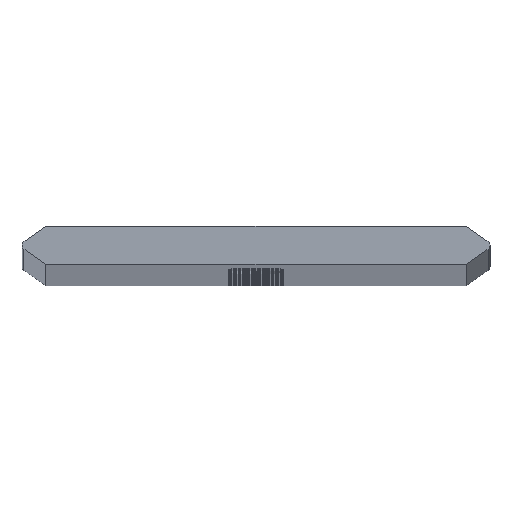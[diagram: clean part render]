
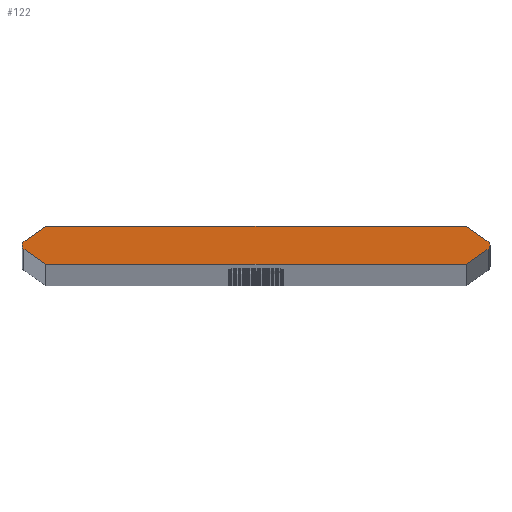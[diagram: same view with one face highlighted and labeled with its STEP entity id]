
A CAD part, top view. The second image highlights one B-rep face of the part: STEP entity #122.
In plain terms, the highlighted planar face has unit normal (0, 0, 1).
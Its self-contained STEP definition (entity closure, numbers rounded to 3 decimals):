
#122=ADVANCED_FACE('',(#226),#227,.T.);
#226=FACE_OUTER_BOUND('',#382,.T.);
#227=PLANE('',#383);
#382=EDGE_LOOP('',(#773,#774,#775,#776,#777,#778,#779,#780,#781,#782));
#383=AXIS2_PLACEMENT_3D('',#783,#784,#785);
#773=ORIENTED_EDGE('',*,*,#941,.T.);
#774=ORIENTED_EDGE('',*,*,#1078,.T.);
#775=ORIENTED_EDGE('',*,*,#1079,.F.);
#776=ORIENTED_EDGE('',*,*,#1080,.F.);
#777=ORIENTED_EDGE('',*,*,#1081,.F.);
#778=ORIENTED_EDGE('',*,*,#937,.T.);
#779=ORIENTED_EDGE('',*,*,#1082,.T.);
#780=ORIENTED_EDGE('',*,*,#1083,.F.);
#781=ORIENTED_EDGE('',*,*,#1084,.F.);
#782=ORIENTED_EDGE('',*,*,#1085,.F.);
#783=CARTESIAN_POINT('',(0.,0.,1976.0));
#784=DIRECTION('',(0.0,0.0,1.0));
#785=DIRECTION('',(1.0,0.0,0.0));
#937=EDGE_CURVE('',#1101,#1098,#1102,.T.);
#941=EDGE_CURVE('',#1109,#1106,#1110,.T.);
#1078=EDGE_CURVE('',#1106,#1336,#1338,.T.);
#1079=EDGE_CURVE('',#1339,#1336,#1340,.T.);
#1080=EDGE_CURVE('',#1341,#1339,#1342,.T.);
#1081=EDGE_CURVE('',#1101,#1341,#1343,.T.);
#1082=EDGE_CURVE('',#1098,#1344,#1345,.T.);
#1083=EDGE_CURVE('',#1346,#1344,#1347,.T.);
#1084=EDGE_CURVE('',#1348,#1346,#1349,.T.);
#1085=EDGE_CURVE('',#1109,#1348,#1350,.T.);
#1098=VERTEX_POINT('',#1368);
#1101=VERTEX_POINT('',#1372);
#1102=CIRCLE('',#1373,0.76);
#1106=VERTEX_POINT('',#1378);
#1109=VERTEX_POINT('',#1382);
#1110=CIRCLE('',#1383,0.76);
#1336=VERTEX_POINT('',#1654);
#1338=CIRCLE('',#1657,0.76);
#1339=VERTEX_POINT('',#1658);
#1340=LINE('',#1659,#1660);
#1341=VERTEX_POINT('',#1661);
#1342=LINE('',#1662,#1663);
#1343=LINE('',#1664,#1665);
#1344=VERTEX_POINT('',#1666);
#1345=CIRCLE('',#1667,0.76);
#1346=VERTEX_POINT('',#1668);
#1347=LINE('',#1669,#1670);
#1348=VERTEX_POINT('',#1671);
#1349=LINE('',#1672,#1673);
#1350=LINE('',#1674,#1675);
#1368=CARTESIAN_POINT('',(37.84,0.,1976.0));
#1372=CARTESIAN_POINT('',(37.519,-0.62,1976.0));
#1373=AXIS2_PLACEMENT_3D('',#1705,#1706,#1707);
#1378=CARTESIAN_POINT('',(-37.84,0.,1976.0));
#1382=CARTESIAN_POINT('',(-37.519,0.62,1976.0));
#1383=AXIS2_PLACEMENT_3D('',#1713,#1714,#1715);
#1654=CARTESIAN_POINT('',(-37.519,-0.62,1976.0));
#1657=AXIS2_PLACEMENT_3D('',#2032,#2033,#2034);
#1658=CARTESIAN_POINT('',(-34.035,-3.06,1976.0));
#1659=CARTESIAN_POINT('',(-38.405,0.,1976.0));
#1660=VECTOR('',#2035,1.0);
#1661=CARTESIAN_POINT('',(34.035,-3.06,1976.0));
#1662=CARTESIAN_POINT('',(34.035,-3.06,1976.0));
#1663=VECTOR('',#2036,1.0);
#1664=CARTESIAN_POINT('',(38.405,0.0,1976.0));
#1665=VECTOR('',#2037,1.0);
#1666=CARTESIAN_POINT('',(37.519,0.62,1976.0));
#1667=AXIS2_PLACEMENT_3D('',#2038,#2039,#2040);
#1668=CARTESIAN_POINT('',(34.035,3.06,1976.0));
#1669=CARTESIAN_POINT('',(38.405,0.0,1976.0));
#1670=VECTOR('',#2041,1.0);
#1671=CARTESIAN_POINT('',(-34.035,3.06,1976.0));
#1672=CARTESIAN_POINT('',(-34.035,3.06,1976.0));
#1673=VECTOR('',#2042,1.0);
#1674=CARTESIAN_POINT('',(-38.405,0.,1976.0));
#1675=VECTOR('',#2043,1.0);
#1705=CARTESIAN_POINT('',(37.08,0.0,1976.0));
#1706=DIRECTION('',(0.0,0.0,1.0));
#1707=DIRECTION('',(1.0,0.0,0.0));
#1713=CARTESIAN_POINT('',(-37.08,0.,1976.0));
#1714=DIRECTION('',(0.0,0.0,1.0));
#1715=DIRECTION('',(-1.0,0.,0.0));
#2032=CARTESIAN_POINT('',(-37.08,0.,1976.0));
#2033=DIRECTION('',(0.0,0.0,1.0));
#2034=DIRECTION('',(-1.0,0.,0.0));
#2035=DIRECTION('',(-0.819,0.574,0.0));
#2036=DIRECTION('',(-1.0,0.,0.0));
#2037=DIRECTION('',(-0.819,-0.574,0.0));
#2038=CARTESIAN_POINT('',(37.08,0.0,1976.0));
#2039=DIRECTION('',(0.0,0.0,1.0));
#2040=DIRECTION('',(1.0,0.0,0.0));
#2041=DIRECTION('',(0.819,-0.574,0.0));
#2042=DIRECTION('',(1.0,0.,0.0));
#2043=DIRECTION('',(0.819,0.574,0.0));
